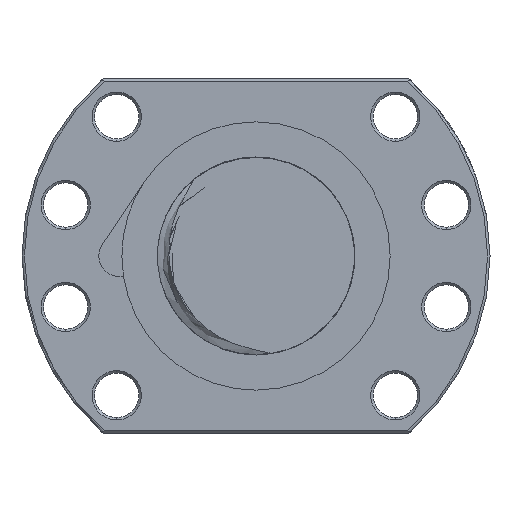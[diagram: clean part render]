
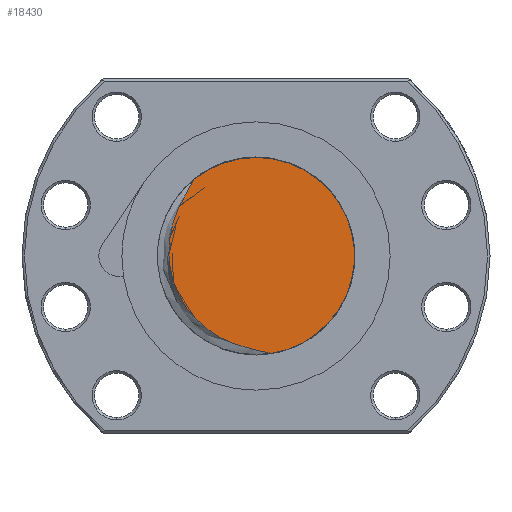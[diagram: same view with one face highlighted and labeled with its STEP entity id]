
A CAD part, left-side view. The second image highlights one B-rep face of the part: STEP entity #18430.
In plain terms, the highlighted planar face has unit normal (-1, 0, 0).
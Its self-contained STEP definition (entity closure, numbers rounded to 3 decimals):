
#7631 = DIRECTION ( 'NONE',  ( 0., 1., 0. ) ) ;
#7632 = DIRECTION ( 'NONE',  ( 1., 0., 0. ) ) ;
#7633 = AXIS2_PLACEMENT_3D ( 'NONE', #7822, #7632, #7631 ) ;
#7634 = CIRCLE ( 'NONE', #7633, 20. ) ;
#7816 = CARTESIAN_POINT ( 'NONE',  ( -196., -3.074, -19.762 ) ) ;
#7822 = CARTESIAN_POINT ( 'NONE',  ( -196., 0., 0. ) ) ;
#18189 = EDGE_CURVE ( 'NONE', #18190, #18191, #21041, .T. ) ;
#18190 = VERTEX_POINT ( 'NONE', #21037 ) ;
#18191 = VERTEX_POINT ( 'NONE', #21036 ) ;
#18420 = EDGE_CURVE ( 'NONE', #18190, #18532, #22091, .T. ) ;
#18421 = ORIENTED_EDGE ( 'NONE', *, *, #18531, .F. ) ;
#18430 = ADVANCED_FACE ( 'NONE', ( #22165 ), #22164, .F. ) ;
#18431 = EDGE_LOOP ( 'NONE', ( #18432, #18433, #18421 ) ) ;
#18432 = ORIENTED_EDGE ( 'NONE', *, *, #18189, .F. ) ;
#18433 = ORIENTED_EDGE ( 'NONE', *, *, #18420, .T. ) ;
#18531 = EDGE_CURVE ( 'NONE', #18191, #18532, #7634, .T. ) ;
#18532 = VERTEX_POINT ( 'NONE', #7816 ) ;
#21036 = CARTESIAN_POINT ( 'NONE',  ( -196., 0., 20. ) ) ;
#21037 = CARTESIAN_POINT ( 'NONE',  ( -196., 12.628, 15.509 ) ) ;
#21038 = DIRECTION ( 'NONE',  ( 0., 1., 0. ) ) ;
#21039 = DIRECTION ( 'NONE',  ( 1., 0., 0. ) ) ;
#21040 = AXIS2_PLACEMENT_3D ( 'NONE', #21099, #21039, #21038 ) ;
#21041 = CIRCLE ( 'NONE', #21040, 20. ) ;
#21099 = CARTESIAN_POINT ( 'NONE',  ( -196., 0., 0. ) ) ;
#22048 = CARTESIAN_POINT ( 'NONE',  ( -196., 0.853, -18.9 ) ) ;
#22049 = CARTESIAN_POINT ( 'NONE',  ( -196., 1.83, -18.667 ) ) ;
#22050 = CARTESIAN_POINT ( 'NONE',  ( -196., 3.269, -18.234 ) ) ;
#22051 = CARTESIAN_POINT ( 'NONE',  ( -196., 3.744, -18.077 ) ) ;
#22052 = CARTESIAN_POINT ( 'NONE',  ( -196., 4.685, -17.731 ) ) ;
#22053 = CARTESIAN_POINT ( 'NONE',  ( -196., 5.152, -17.542 ) ) ;
#22054 = CARTESIAN_POINT ( 'NONE',  ( -196., 6.528, -16.932 ) ) ;
#22055 = CARTESIAN_POINT ( 'NONE',  ( -196., 7.41, -16.467 ) ) ;
#22056 = CARTESIAN_POINT ( 'NONE',  ( -196., 9.1, -15.419 ) ) ;
#22057 = CARTESIAN_POINT ( 'NONE',  ( -196., 9.909, -14.836 ) ) ;
#22058 = CARTESIAN_POINT ( 'NONE',  ( -196., 11.063, -13.867 ) ) ;
#22059 = CARTESIAN_POINT ( 'NONE',  ( -196., 11.436, -13.529 ) ) ;
#22060 = CARTESIAN_POINT ( 'NONE',  ( -196., 12.15, -12.831 ) ) ;
#22061 = CARTESIAN_POINT ( 'NONE',  ( -196., 12.493, -12.47 ) ) ;
#22062 = CARTESIAN_POINT ( 'NONE',  ( -196., 13.476, -11.351 ) ) ;
#22063 = CARTESIAN_POINT ( 'NONE',  ( -196., 14.074, -10.556 ) ) ;
#22064 = CARTESIAN_POINT ( 'NONE',  ( -196., 14.883, -9.292 ) ) ;
#22065 = CARTESIAN_POINT ( 'NONE',  ( -196., 15.139, -8.857 ) ) ;
#22066 = CARTESIAN_POINT ( 'NONE',  ( -196., 15.613, -7.974 ) ) ;
#22067 = CARTESIAN_POINT ( 'NONE',  ( -196., 15.832, -7.526 ) ) ;
#22068 = CARTESIAN_POINT ( 'NONE',  ( -196., 16.436, -6.163 ) ) ;
#22069 = CARTESIAN_POINT ( 'NONE',  ( -196., 16.767, -5.228 ) ) ;
#22070 = CARTESIAN_POINT ( 'NONE',  ( -196., 17.154, -3.785 ) ) ;
#22071 = CARTESIAN_POINT ( 'NONE',  ( -196., 17.265, -3.297 ) ) ;
#22072 = CARTESIAN_POINT ( 'NONE',  ( -196., 17.451, -2.309 ) ) ;
#22073 = CARTESIAN_POINT ( 'NONE',  ( -196., 17.525, -1.812 ) ) ;
#22074 = CARTESIAN_POINT ( 'NONE',  ( -196., 17.689, -0.324 ) ) ;
#22075 = CARTESIAN_POINT ( 'NONE',  ( -196., 17.724, 0.669 ) ) ;
#22076 = CARTESIAN_POINT ( 'NONE',  ( -196., 17.668, 2.159 ) ) ;
#22077 = CARTESIAN_POINT ( 'NONE',  ( -196., 17.631, 2.656 ) ) ;
#22078 = CARTESIAN_POINT ( 'NONE',  ( -196., 17.52, 3.65 ) ) ;
#22079 = CARTESIAN_POINT ( 'NONE',  ( -196., 17.446, 4.15 ) ) ;
#22080 = CARTESIAN_POINT ( 'NONE',  ( -196., 16.986, 6.61 ) ) ;
#22081 = CARTESIAN_POINT ( 'NONE',  ( -196., 16.349, 8.476 ) ) ;
#22082 = CARTESIAN_POINT ( 'NONE',  ( -196., 15.083, 11.16 ) ) ;
#22083 = CARTESIAN_POINT ( 'NONE',  ( -196., 14.608, 12.035 ) ) ;
#22084 = CARTESIAN_POINT ( 'NONE',  ( -196., 13.85, 13.329 ) ) ;
#22085 = CARTESIAN_POINT ( 'NONE',  ( -196., 13.591, 13.757 ) ) ;
#22086 = CARTESIAN_POINT ( 'NONE',  ( -196., 13.209, 14.403 ) ) ;
#22087 = CARTESIAN_POINT ( 'NONE',  ( -196., 13.083, 14.618 ) ) ;
#22088 = CARTESIAN_POINT ( 'NONE',  ( -196., 12.842, 15.056 ) ) ;
#22089 = CARTESIAN_POINT ( 'NONE',  ( -196., 12.725, 15.279 ) ) ;
#22090 = CARTESIAN_POINT ( 'NONE',  ( -196., 12.628, 15.509 ) ) ;
#22091 = B_SPLINE_CURVE_WITH_KNOTS ( 'NONE', 3,
 ( #22090, #22089, #22088, #22087, #22086, #22085, #22084, #22083, #22082, #22081, #22080, #22079, #22078, #22077, #22076, #22075, #22074, #22073, #22072, #22071, #22070, #22069, #22068, #22067, #22066, #22065, #22064, #22063, #22062, #22061, #22060, #22059, #22058, #22057, #22056, #22055, #22054, #22053, #22052, #22051, #22050, #22049, #22048, #22104, #22103, #22102, #22101, #22100, #22099, #22098 ),
 .UNSPECIFIED., .F., .F.,
 ( 4, 2, 2, 2, 2, 2, 2, 2, 2, 2, 2, 2, 2, 2, 2, 2, 2, 2, 2, 2, 2, 2, 2, 2, 4 ),
 ( 0.011, 0.012, 0.012, 0.014, 0.017, 0.023, 0.024, 0.026, 0.028, 0.03, 0.031, 0.034, 0.036, 0.037, 0.04, 0.042, 0.043, 0.046, 0.049, 0.051, 0.052, 0.055, 0.056, 0.057, 0.058 ),
 .UNSPECIFIED. ) ;
#22098 = CARTESIAN_POINT ( 'NONE',  ( -196., -3.074, -19.762 ) ) ;
#22099 = CARTESIAN_POINT ( 'NONE',  ( -196., -2.835, -19.68 ) ) ;
#22100 = CARTESIAN_POINT ( 'NONE',  ( -196., -2.592, -19.618 ) ) ;
#22101 = CARTESIAN_POINT ( 'NONE',  ( -196., -2.103, -19.503 ) ) ;
#22102 = CARTESIAN_POINT ( 'NONE',  ( -196., -1.857, -19.451 ) ) ;
#22103 = CARTESIAN_POINT ( 'NONE',  ( -196., -1.118, -19.301 ) ) ;
#22104 = CARTESIAN_POINT ( 'NONE',  ( -196., -0.624, -19.206 ) ) ;
#22160 = DIRECTION ( 'NONE',  ( 0., 0., -1. ) ) ;
#22161 = DIRECTION ( 'NONE',  ( 1., 0., 0. ) ) ;
#22162 = CARTESIAN_POINT ( 'NONE',  ( -196., 0., 0. ) ) ;
#22163 = AXIS2_PLACEMENT_3D ( 'NONE', #22162, #22161, #22160 ) ;
#22164 = PLANE ( 'NONE',  #22163 ) ;
#22165 = FACE_OUTER_BOUND ( 'NONE', #18431, .T. ) ;
